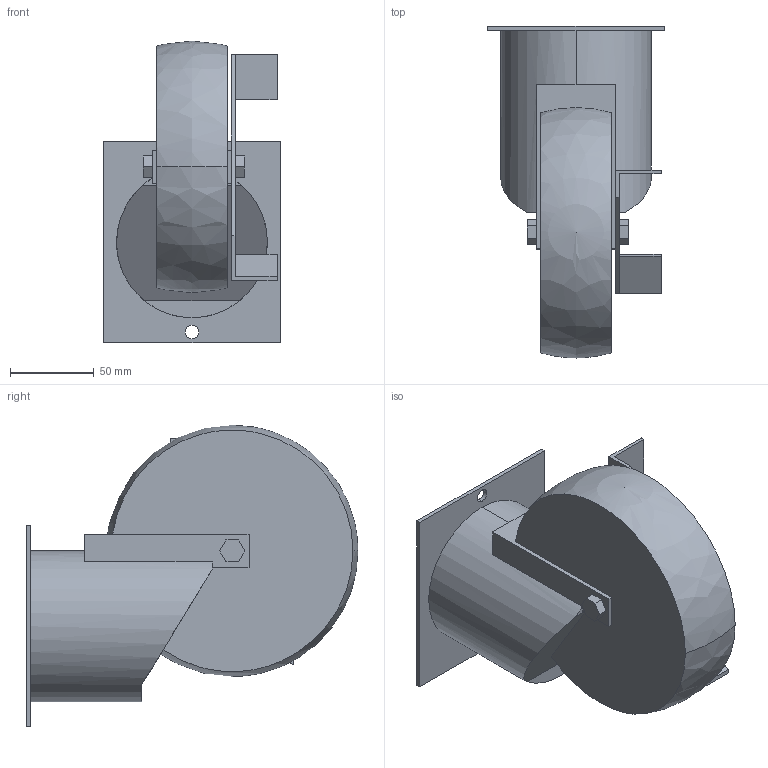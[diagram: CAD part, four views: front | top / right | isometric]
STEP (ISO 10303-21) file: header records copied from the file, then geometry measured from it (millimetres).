
FILE_DESCRIPTION (( 'STEP AP214' ), '1' );
FILE_NAME ('ST-150S_ST-150SVU.step', '2024-02-19T02:11:56', ( 'catia' ), ( 'HP Inc.' ), 'SwSTEP 2.0', 'SolidWorks 2021', '' );
FILE_SCHEMA (( 'AUTOMOTIVE_DESIGN' ));
Length unit declared in the file: millimetre
Products named in the file (1): ST-150S_ST-150SVU
Bounding box: 105 x 198 x 180 mm (x, y, z)
Volume: 1242583.4 mm3; surface area: 103263 mm2
Topology: 1 solids, 1 shells, 59 faces, 161 edges, 105 vertices
Faces by surface type: plane 51, cylinder 6, sphere 2
Entity records: 1847 total; most frequent: CARTESIAN_POINT 327, ORIENTED_EDGE 312, DIRECTION 296, EDGE_CURVE 156, VECTOR 130, LINE 130, VERTEX_POINT 102, AXIS2_PLACEMENT_3D 83
